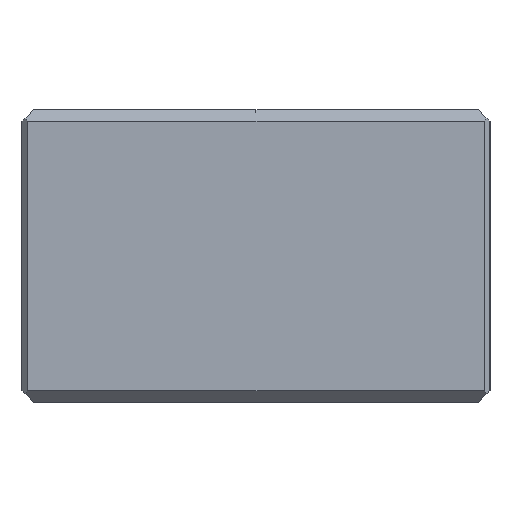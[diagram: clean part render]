
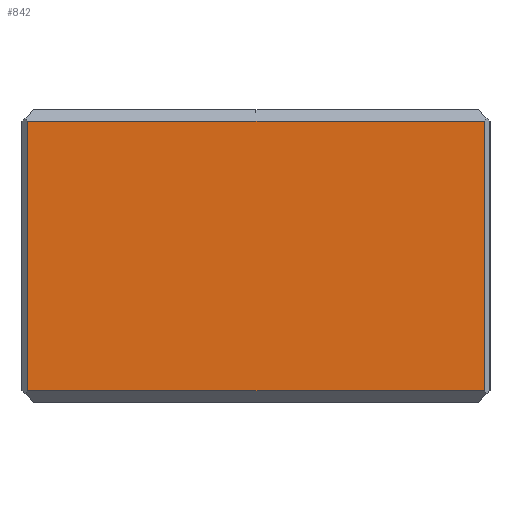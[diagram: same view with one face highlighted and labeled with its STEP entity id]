
A CAD part, left-side view. The second image highlights one B-rep face of the part: STEP entity #842.
In plain terms, the highlighted planar face has unit normal (-1, 0, 0).
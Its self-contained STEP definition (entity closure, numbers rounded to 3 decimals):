
#451=CARTESIAN_POINT('Vertex',(-75.,39.,48.)) ;
#454=CARTESIAN_POINT('Line Origine',(-75.,0.,48.)) ;
#458=CARTESIAN_POINT('Vertex',(-75.,-39.,48.)) ;
#802=CARTESIAN_POINT('Vertex',(-75.,39.,2.)) ;
#805=CARTESIAN_POINT('Line Origine',(-75.,39.,25.)) ;
#819=CARTESIAN_POINT('Axis2P3D Location',(-75.,40.,50.)) ;
#824=CARTESIAN_POINT('Line Origine',(-75.,0.,2.)) ;
#828=CARTESIAN_POINT('Vertex',(-75.,-39.,2.)) ;
#831=CARTESIAN_POINT('Line Origine',(-75.,-39.,25.)) ;
#455=DIRECTION('Vector Direction',(0.,1.,0.)) ;
#806=DIRECTION('Vector Direction',(0.,0.,-1.)) ;
#820=DIRECTION('Axis2P3D Direction',(1.,0.,-0.)) ;
#821=DIRECTION('Axis2P3D XDirection',(0.,1.,0.)) ;
#825=DIRECTION('Vector Direction',(0.,-1.,0.)) ;
#832=DIRECTION('Vector Direction',(0.,0.,1.)) ;
#822=AXIS2_PLACEMENT_3D('Plane Axis2P3D',#819,#820,#821) ;
#837=ORIENTED_EDGE('',*,*,#460,.T.) ;
#838=ORIENTED_EDGE('',*,*,#809,.T.) ;
#839=ORIENTED_EDGE('',*,*,#830,.T.) ;
#840=ORIENTED_EDGE('',*,*,#835,.T.) ;
#456=VECTOR('Line Direction',#455,1.) ;
#807=VECTOR('Line Direction',#806,1.) ;
#826=VECTOR('Line Direction',#825,1.) ;
#833=VECTOR('Line Direction',#832,1.) ;
#842=ADVANCED_FACE('Smusso4',(#841),#823,.F.) ;
#460=EDGE_CURVE('',#459,#452,#457,.T.) ;
#809=EDGE_CURVE('',#452,#803,#808,.T.) ;
#830=EDGE_CURVE('',#803,#829,#827,.T.) ;
#835=EDGE_CURVE('',#829,#459,#834,.T.) ;
#836=EDGE_LOOP('',(#837,#838,#839,#840)) ;
#841=FACE_OUTER_BOUND('',#836,.T.) ;
#457=LINE('Line',#454,#456) ;
#808=LINE('Line',#805,#807) ;
#827=LINE('Line',#824,#826) ;
#834=LINE('Line',#831,#833) ;
#823=PLANE('Plane',#822) ;
#452=VERTEX_POINT('',#451) ;
#459=VERTEX_POINT('',#458) ;
#803=VERTEX_POINT('',#802) ;
#829=VERTEX_POINT('',#828) ;
